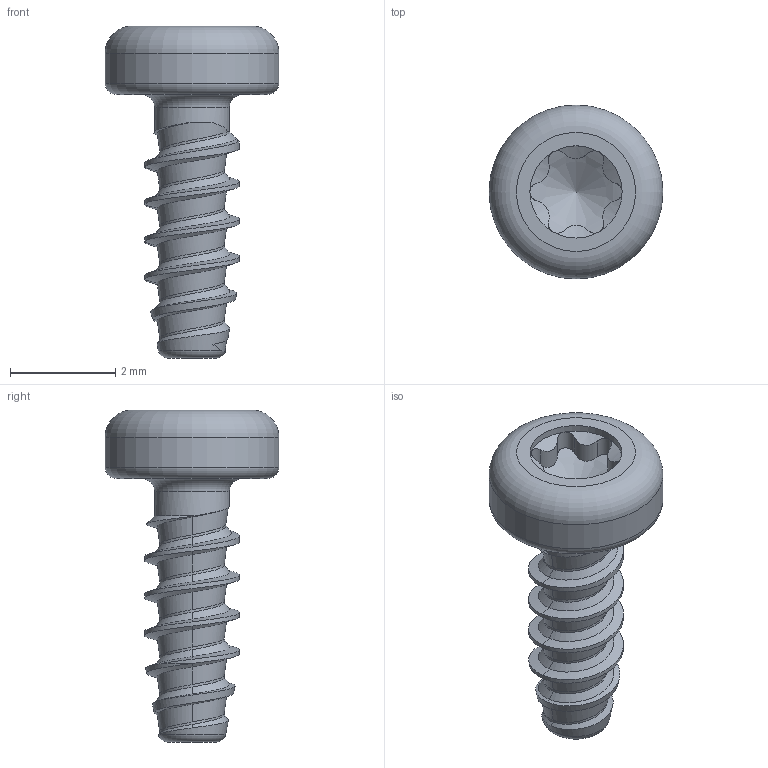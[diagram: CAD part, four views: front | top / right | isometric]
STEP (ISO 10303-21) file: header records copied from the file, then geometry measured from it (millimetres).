
FILE_DESCRIPTION(/* description */ (''),/* implementation_level */ '2;1');
FILE_NAME(/* name */ 'KN6039-STSplus-18x5.0-T6.step',/* time_stamp */ '2017-10-11T10:44:02+02:00',/* author */ (''),/* organization */ (''),/* preprocessor_version */ 'ST-DEVELOPER v16',/* originating_system */ 'SIEMENS PLM Software NX 10.0',/* authorisation */ '');
FILE_SCHEMA (('AUTOMOTIVE_DESIGN { 1 0 10303 214 3 1 1 1 }'));
Length unit declared in the file: millimetre
Products named in the file (1): KN6039-STSplus-18x5.0-T6
Bounding box: 3.3 x 3.3 x 6.3 mm (x, y, z)
Volume: 16.8 mm3; surface area: 59.4 mm2
Topology: 1 solids, 1 shells, 62 faces, 155 edges, 96 vertices
Faces by surface type: bspline 28, cylinder 17, cone 9, torus 4, plane 4
Full cylindrical faces by diameter (mm): 1.42 x1, 1.75 x1, 3.3 x1
Entity records: 3875 total; most frequent: CARTESIAN_POINT 2680, ORIENTED_EDGE 286, DIRECTION 144, EDGE_CURVE 143, VERTEX_POINT 93, B_SPLINE_CURVE_WITH_KNOTS 88, EDGE_LOOP 71, ADVANCED_FACE 62
